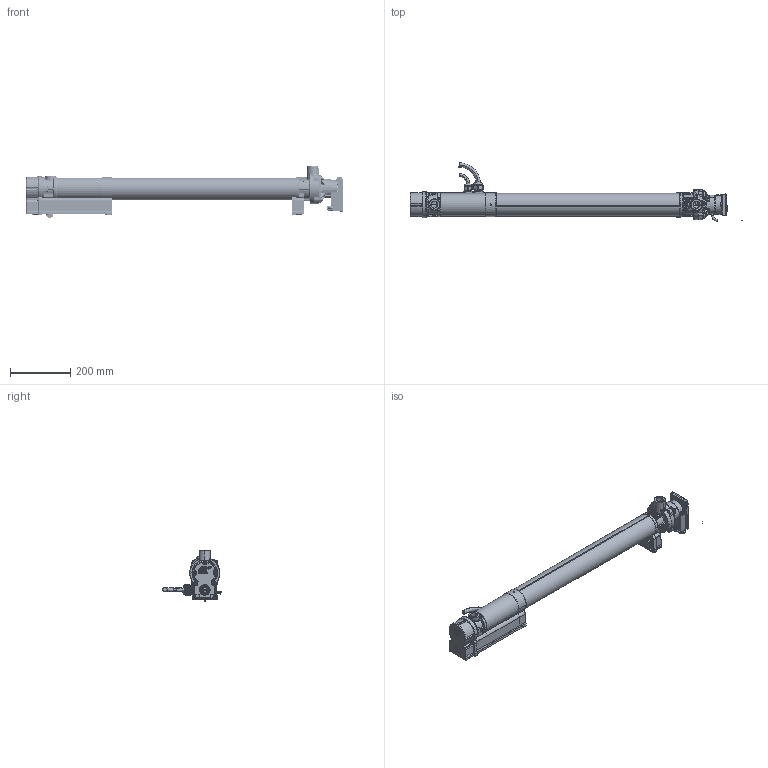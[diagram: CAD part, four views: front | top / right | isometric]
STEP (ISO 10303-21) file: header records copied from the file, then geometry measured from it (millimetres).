
FILE_DESCRIPTION (( 'STEP AP214' ), '1' );
FILE_NAME ('ASS_TOPSTART_12KW_WILOYP_T.STEP', '2014-01-10T09:52:44', ( '' ), ( '' ), 'SwSTEP 2.0', 'SolidWorks 2013', '' );
FILE_SCHEMA (( 'AUTOMOTIVE_DESIGN' ));
Length unit declared in the file: millimetre
Products named in the file (25): Copie de Copie de Pièce5^ASS_TOPSTART_12KW_WILOYP_T; Vis-Al-4; 1597020-R; Bague_Sup; 462615; REFROIDISSEUR PERCE; 1597020-C; GRCAPCAR; 1597025-R; Vis-Al-6; 1597020-B; CORPS DE CHAUFFE TOPSTART_12KW _LG; 1597025-C; 3d-stp_WILO-Intec_Motor-MS13-F14-Yonos-Para-RK-WS8; 1597020-A; 1597025-B; Pièce_Iso_4; BOUCHON; ASS_TOPSTART_12KW_WILOYP_T; 1597025-A; PETCAP; Copie (2) de Copie de Pièce6^ASS_TOPSTART_12KW_WILOYP_T; BOUCHON_2; 462614; Pièce_Iso_1
Assembly tree (33 placements, depth 3):
  ASS_TOPSTART_12KW_WILOYP_T
    CORPS DE CHAUFFE TOPSTART_12KW _LG
    GRCAPCAR
    Bague_Sup
    Pièce_Iso_1
    PETCAP
    Pièce_Iso_4
    3d-stp_WILO-Intec_Motor-MS13-F14-Yonos-Para-RK-WS8
    Vis-Al-6  x4
    REFROIDISSEUR PERCE
    Vis-Al-4  x5
    BOUCHON_2  x3
    BOUCHON
    462614
      1597020-A
      1597020-B
      1597020-C
      1597020-R
    462615
      1597025-A
      1597025-B
      1597025-C
      1597025-R
    Copie de Copie de Pièce5^ASS_TOPSTART_12KW_WILOYP_T
    Copie (2) de Copie de Pièce6^ASS_TOPSTART_12KW_WILOYP_T
Bounding box: 1101.64 x 193.62 x 170.62 mm (x, y, z)
Volume: 2067381.3 mm3; surface area: 1114300.1 mm2
Topology: 30 solids, 49 shells, 4805 faces, 12218 edges, 7549 vertices
Faces by surface type: bspline 1525, plane 1440, cylinder 1377, cone 282, torus 127, sphere 54
Entity records: 295330 total; most frequent: CARTESIAN_POINT 178212, ORIENTED_EDGE 23024, DIRECTION 14922, EDGE_CURVE 11544, VERTEX_POINT 7210, AXIS2_PLACEMENT_3D 5527, EDGE_LOOP 4832, B_SPLINE_CURVE_WITH_KNOTS 4751
